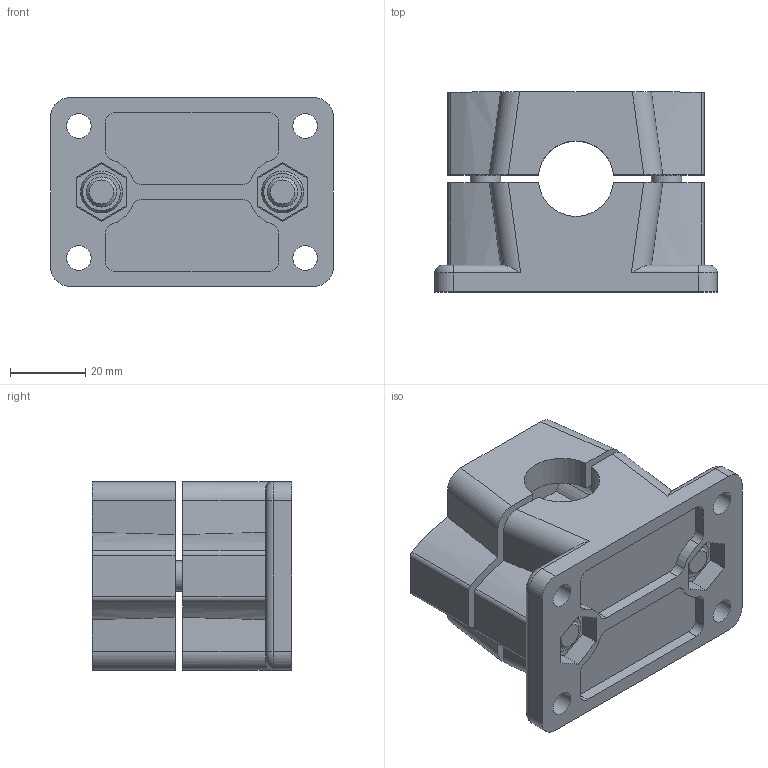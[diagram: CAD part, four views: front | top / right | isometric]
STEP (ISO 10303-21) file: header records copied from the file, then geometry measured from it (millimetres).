
FILE_DESCRIPTION( ( 'STEP AP203' ), '1' );
FILE_NAME( 'C:/Temp/Ganter_Step_05_03_2020/data/3_7/147/Flanged connector clamp GN 147-B20-2-SW.stp', '2020-03-12T14:20:23', ( 'License CC BY-ND 4.0' ), ( 'CADENAS' ), ' ', 'PARTsolutions', ' ' );
FILE_SCHEMA( ( 'CONFIG_CONTROL_DESIGN' ) );
Length unit declared in the file: millimetre
Products named in the file (1): _Flanged connector clamp GN 147-B20-2-SW
Bounding box: 75 x 53 x 50 mm (x, y, z)
Volume: 86233.8 mm3; surface area: 36182 mm2
Topology: 1 solids, 1 shells, 220 faces, 586 edges, 390 vertices
Faces by surface type: plane 119, cylinder 91, torus 6, cone 4
Full cylindrical faces by diameter (mm): 6.5 x4, 8 x4, 8.5 x4, 13 x2
Entity records: 6818 total; most frequent: CARTESIAN_POINT 1217, DIRECTION 1192, ORIENTED_EDGE 1112, EDGE_CURVE 556, AXIS2_PLACEMENT_3D 419, VERTEX_POINT 380, LINE 354, VECTOR 354
